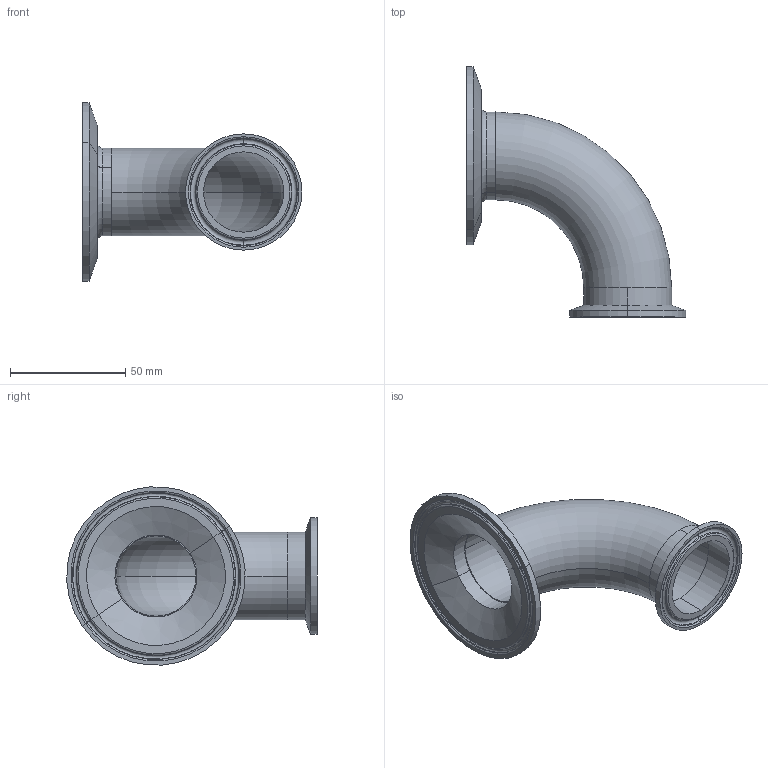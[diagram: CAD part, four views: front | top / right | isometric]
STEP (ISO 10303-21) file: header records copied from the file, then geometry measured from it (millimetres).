
FILE_DESCRIPTION (( 'STEP AP203' ), '1' );
FILE_NAME ('EG2C31CC2.5X1.5.STEP', '2018-05-07T14:02:11', ( 'vneprd' ), ( 'Microsoft' ), 'SwSTEP 2.0', 'SolidWorks 2014', '' );
FILE_SCHEMA (( 'CONFIG_CONTROL_DESIGN' ));
Length unit declared in the file: inch
Products named in the file (4): 2WCL1.5; EG2CS1.5; EG2CS31D2.5X1.50; EG2C31CC2.5X1.5
Assembly tree (3 placements, depth 2):
  EG2C31CC2.5X1.5
    2WCL1.5
    EG2CS1.5
    EG2CS31D2.5X1.50
Bounding box: 95.19 x 108.45 x 77.21 mm (x, y, z)
Volume: 37622.2 mm3; surface area: 36147.7 mm2
Topology: 3 solids, 3 shells, 55 faces, 110 edges, 62 vertices
Faces by surface type: torus 18, cone 18, cylinder 12, plane 7
Entity records: 1866 total; most frequent: DIRECTION 312, CARTESIAN_POINT 233, ORIENTED_EDGE 220, AXIS2_PLACEMENT_3D 141, EDGE_CURVE 110, CIRCLE 80, EDGE_LOOP 62, VERTEX_POINT 62
